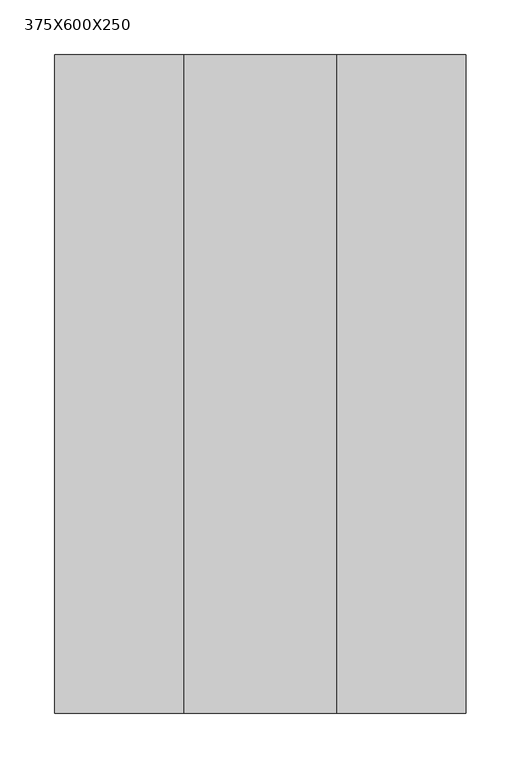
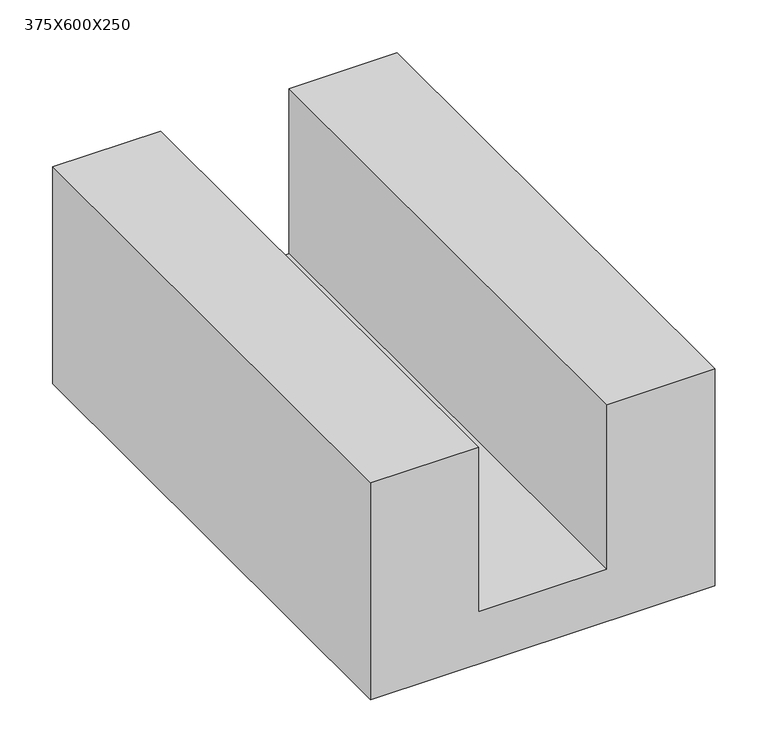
"""IFC4 building model written with IfcOpenShell, lengths in millimetres: plate geometry, GASBETON Evolution Canalette : 375X600X250."""

import ifcopenshell
import ifcopenshell.guid

model = None  # the IFC model being written
_history = None  # IfcOwnerHistory: only IFC2X3 demands one
_inside = {}  # id of a spatial element -> (the spatial element, [elements in it])
_under = {}  # id of a project, library or spatial element -> (it, [spatial elements below it])
_declared = {}  # id of a project -> (the project, [libraries it declares])
_typed = {}  # id of a type object -> (the type object, [elements of that type])
_made_of = {}  # id of a material, layer set ... -> (it, [elements and type objects made of it])


def new_model(schema):
    """Start an empty IFC model of exactly this schema.

    Asked for "IFC4X3", IfcOpenShell would pick the latest addendum, in which some entities
    have other attributes; the version numbers below select the first issue.
    IFC2X3 requires an IfcOwnerHistory on every rooted entity: one is made here for all.
    """
    global model, _history
    if schema == "IFC4X3":
        model = ifcopenshell.file(schema_version=(4, 3, 0, 0))
    else:
        model = ifcopenshell.file(schema=schema)
    _inside.clear()
    _under.clear()
    _declared.clear()
    _typed.clear()
    _made_of.clear()
    _history = None
    if model.schema == "IFC2X3":
        org = make("IfcOrganization", Name="unknown")
        user = make(
            "IfcPersonAndOrganization",
            ThePerson=make("IfcPerson", FamilyName="unknown"),
            TheOrganization=org,
        )
        app = make(
            "IfcApplication",
            ApplicationDeveloper=org,
            Version="unknown",
            ApplicationFullName="unknown",
            ApplicationIdentifier="unknown",
        )
        _history = make(
            "IfcOwnerHistory",
            OwningUser=user,
            OwningApplication=app,
            ChangeAction="ADDED",
            CreationDate=0,
        )
    return model


def make(cls, **values):
    """One entity of the class cls with the attributes given. An attribute that is None is left unset."""
    return model.create_entity(
        cls, **{name: value for name, value in values.items() if value is not None}
    )


def rooted(cls, **values):
    """An entity with a GlobalId (a new one), such as an element, a storey or a relation."""
    return make(cls, GlobalId=ifcopenshell.guid.new(), OwnerHistory=_history, **values)


def si_unit(unit_type, name, prefix=None):
    """IfcSIUnit, for example si_unit("LENGTHUNIT", "METRE", prefix="MILLI")."""
    return make("IfcSIUnit", UnitType=unit_type, Prefix=prefix, Name=name)


def assignment(units):
    """IfcUnitAssignment: the units of a project."""
    return None if units is None else make("IfcUnitAssignment", Units=units)


def point(xyz):
    """IfcCartesianPoint."""
    return None if xyz is None else make("IfcCartesianPoint", Coordinates=xyz)


def direction(xyz):
    """IfcDirection."""
    return None if xyz is None else make("IfcDirection", DirectionRatios=xyz)


def frame(location, z_axis=None, x_axis=None):
    """IfcAxis2Placement3D, a coordinate frame: its origin and axes. An axis left out is left unset."""
    return make(
        "IfcAxis2Placement3D",
        Location=point(location),
        Axis=direction(z_axis),
        RefDirection=direction(x_axis),
    )


def origin():
    """The frame at (0, 0, 0) with its axes left unset."""
    return frame((0.0, 0.0, 0.0))


def place(relative_to, where):
    """IfcLocalPlacement: puts the frame where relative to a parent placement (None: the world)."""
    return make(
        "IfcLocalPlacement", PlacementRelTo=relative_to, RelativePlacement=where
    )


def context(
    kind, dimensions, precision=None, world=None, true_north=None, identifier=None
):
    """IfcGeometricRepresentationContext, for example the 3D "Model" context."""
    return make(
        "IfcGeometricRepresentationContext",
        ContextIdentifier=identifier,
        ContextType=kind,
        CoordinateSpaceDimension=dimensions,
        Precision=precision,
        WorldCoordinateSystem=world,
        TrueNorth=true_north,
    )


def project(units=None, contexts=None):
    """IfcProject with its units and contexts."""
    return rooted(
        "IfcProject",
        Name="project",
        RepresentationContexts=contexts,
        UnitsInContext=assignment(units),
    )


def spatial(cls, under=None, at=None, **own):
    """A site, building, storey or space (cls), placed at a placement, below another one or the project."""
    s = rooted(cls, ObjectPlacement=at, **own)
    if under is not None:
        _under.setdefault(under.id(), (under, []))[1].append(s)
    return s


def polyline(points):
    """IfcPolyline through the points."""
    return make("IfcPolyline", Points=[point(p) for p in points])


def outline(outer, holes=None, kind="AREA"):
    """IfcArbitraryClosedProfileDef: a profile drawn as a closed curve; with holes, ...WithVoids."""
    if holes is None:
        return make("IfcArbitraryClosedProfileDef", ProfileType=kind, OuterCurve=outer)
    return make(
        "IfcArbitraryProfileDefWithVoids",
        ProfileType=kind,
        OuterCurve=outer,
        InnerCurves=holes,
    )


def extrude(swept, where, along, depth):
    """IfcExtrudedAreaSolid: the profile swept, set in the frame where, extruded along a direction by depth."""
    return make(
        "IfcExtrudedAreaSolid",
        SweptArea=swept,
        Position=where,
        ExtrudedDirection=direction(along),
        Depth=depth,
    )


def shape(context_of_items, identifier, shape_type, items):
    """IfcShapeRepresentation: the items that make up one representation, for example the "Body"."""
    return make(
        "IfcShapeRepresentation",
        ContextOfItems=context_of_items,
        RepresentationIdentifier=identifier,
        RepresentationType=shape_type,
        Items=items,
    )


def source(mapping_origin, context_of_items, identifier, shape_type, items):
    """IfcRepresentationMap: a shape defined once, which mapped items show again and again."""
    return make(
        "IfcRepresentationMap",
        MappingOrigin=mapping_origin,
        MappedRepresentation=shape(context_of_items, identifier, shape_type, items),
    )


def transform(
    local_origin,
    x_axis=None,
    y_axis=None,
    z_axis=None,
    scale=None,
    scale2=None,
    scale3=None,
    uniform=True,
):
    """IfcCartesianTransformationOperator3D, or its non-uniform kind. x_axis, y_axis, z_axis: its Axis1, 2, 3."""
    if uniform:
        return make(
            "IfcCartesianTransformationOperator3D",
            Axis1=direction(x_axis),
            Axis2=direction(y_axis),
            LocalOrigin=point(local_origin),
            Scale=scale,
            Axis3=direction(z_axis),
        )
    return make(
        "IfcCartesianTransformationOperator3DnonUniform",
        Axis1=direction(x_axis),
        Axis2=direction(y_axis),
        LocalOrigin=point(local_origin),
        Scale=scale,
        Axis3=direction(z_axis),
        Scale2=scale2,
        Scale3=scale3,
    )


def mapped(mapping_source, mapping_target):
    """IfcMappedItem: shows the shape of a source again, moved by a transform."""
    return make(
        "IfcMappedItem", MappingSource=mapping_source, MappingTarget=mapping_target
    )


def made_of(thing, what):
    """Note that an element or type object is made of a material, layer set ...; save() writes the relation."""
    if what is not None:
        _made_of.setdefault(what.id(), (what, []))[1].append(thing)
    return thing


def element(
    cls,
    number,
    at=None,
    inside=None,
    cuts=None,
    type_object=None,
    material=None,
    context=None,
    identifier="Body",
    shape_type=None,
    held_by="IfcProductDefinitionShape",
    body=None,
    shapes=None,
    **own,
):
    """One element of the class cls, such as IfcWall. Its Tag is "e" and its number.

    at: its placement. inside: the storey or other place that contains it. cuts: it is an
    opening in that element (IfcRelVoidsElement). A single representation is given by context,
    identifier, shape_type and body (its items); several are given by shapes. held_by: the class
    of the entity that holds the representations. save() writes the other relations.
    """
    e = rooted(cls, Tag="e%d" % number, ObjectPlacement=at, **own)
    if body is not None:
        shapes = [shape(context, identifier, shape_type, body)]
    if shapes is not None:
        e.Representation = make(held_by, Representations=shapes)
    if inside is not None:
        _inside.setdefault(inside.id(), (inside, []))[1].append(e)
    if cuts is not None:
        rooted(
            "IfcRelVoidsElement", RelatingBuildingElement=cuts, RelatedOpeningElement=e
        )
    if type_object is not None:
        _typed.setdefault(type_object.id(), (type_object, []))[1].append(e)
    return made_of(e, material)


def aggregate(whole, parts):
    """IfcRelAggregates: a whole, such as a stair, and the parts it consists of."""
    return rooted("IfcRelAggregates", RelatingObject=whole, RelatedObjects=parts)


def save(model, path):
    """Write the relations noted so far, then the file.

    IfcRelAggregates (storeys below a building ...), IfcRelContainedInSpatialStructure (elements
    in a storey), IfcRelDefinesByType, IfcRelAssociatesMaterial and IfcRelDeclares: one each for
    every whole, place, type object, material and project.
    """
    for whole, parts in _under.values():
        aggregate(whole, parts)
    for where, things in _inside.values():
        rooted(
            "IfcRelContainedInSpatialStructure",
            RelatedElements=things,
            RelatingStructure=where,
        )
    for kind, things in _typed.values():
        rooted("IfcRelDefinesByType", RelatedObjects=things, RelatingType=kind)
    for what, things in _made_of.values():
        rooted("IfcRelAssociatesMaterial", RelatedObjects=things, RelatingMaterial=what)
    for by, libraries in _declared.values():
        rooted("IfcRelDeclares", RelatingContext=by, RelatedDefinitions=libraries)
    model.write(path)


def plate_375x600x250_45888c7b(model_context):
    return source(origin(), model_context, "Body", "SweptSolid", [
        extrude(outline(polyline([(0.0, -187.5), (0.0, 187.5), (250.0, 187.5), (250.0, 70.0), (60.0, 70.0), (60.0, -70.0), (250.0, -70.0), (250.0, -187.5), (0.0, -187.5)])), frame((0.0, -300.0, 0.0), z_axis=(0.0, 1.0, 0.0), x_axis=(0.0, 0.0, 1.0)), (0.0, 0.0, 1.0), 600.0),
    ])


if __name__ == "__main__":
    model = new_model("IFC4")
    model_context = context("Model", 3, world=origin())
    ifc_project = project(units=[si_unit("LENGTHUNIT", "METRE", prefix="MILLI")], contexts=[model_context])
    site = spatial("IfcSite", under=ifc_project)
    building = spatial("IfcBuilding", under=site)
    placement = place(None, origin())
    plate_375x600x250_shape = plate_375x600x250_45888c7b(model_context)
    element("IfcPlate", 1, ObjectType="GASBETON Evolution Canalette : 375X600X250", at=placement, inside=building, context=model_context, shape_type="MappedRepresentation", body=[
        mapped(plate_375x600x250_shape, transform((0.0, 0.0, 0.0), x_axis=(1.0, 0.0, 0.0), y_axis=(0.0, 1.0, 0.0), z_axis=(0.0, 0.0, 1.0))),
    ])
    save(model, "model.ifc")
